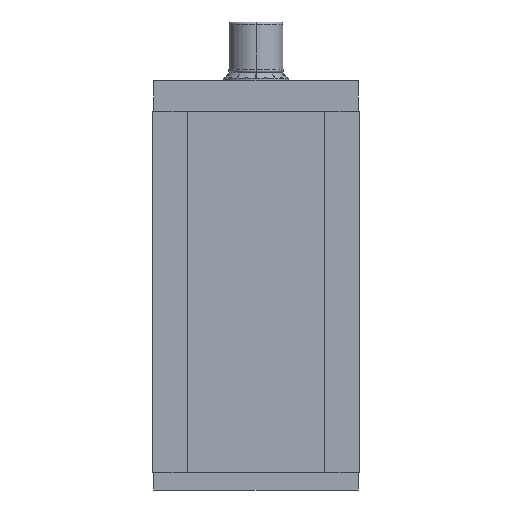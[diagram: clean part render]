
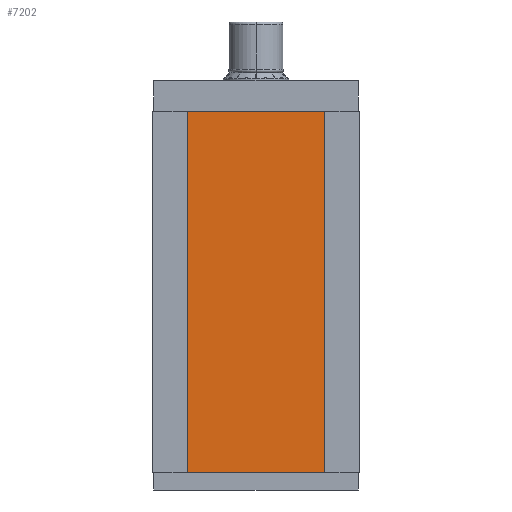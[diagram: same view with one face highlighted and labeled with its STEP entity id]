
A CAD part, front view. The second image highlights one B-rep face of the part: STEP entity #7202.
In plain terms, the highlighted planar face has unit normal (0, -1, 0).
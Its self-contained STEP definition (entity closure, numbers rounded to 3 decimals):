
#2289 = CARTESIAN_POINT ( 'NONE',  ( 41.155, 0., 105. ) ) ;
#2294 = CARTESIAN_POINT ( 'NONE',  ( 41.155, 0., -105. ) ) ;
#2384 = DIRECTION ( 'NONE',  ( 0., 0., -1. ) ) ;
#2385 = VECTOR ( 'NONE', #2384, 1000. ) ;
#2386 = CARTESIAN_POINT ( 'NONE',  ( 41.155, 0., 105. ) ) ;
#2387 = LINE ( 'NONE', #2386, #2385 ) ;
#2573 = DIRECTION ( 'NONE',  ( 1., 0., 0. ) ) ;
#2574 = VECTOR ( 'NONE', #2573, 1000. ) ;
#2575 = CARTESIAN_POINT ( 'NONE',  ( -41.155, 0., 105. ) ) ;
#2576 = LINE ( 'NONE', #2575, #2574 ) ;
#2577 = DIRECTION ( 'NONE',  ( 1., 0., 0. ) ) ;
#2578 = VECTOR ( 'NONE', #2577, 1000. ) ;
#2579 = CARTESIAN_POINT ( 'NONE',  ( -41.155, 0., -105. ) ) ;
#2580 = LINE ( 'NONE', #2579, #2578 ) ;
#2581 = DIRECTION ( 'NONE',  ( 0., 0., 1. ) ) ;
#2582 = DIRECTION ( 'NONE',  ( 0., 1., 0. ) ) ;
#2583 = CARTESIAN_POINT ( 'NONE',  ( -41.155, 0., 105. ) ) ;
#2584 = AXIS2_PLACEMENT_3D ( 'NONE', #2583, #2582, #2581 ) ;
#2585 = PLANE ( 'NONE',  #2584 ) ;
#2586 = FACE_OUTER_BOUND ( 'NONE', #7203, .T. ) ;
#2616 = CARTESIAN_POINT ( 'NONE',  ( -41.155, 0., 105. ) ) ;
#2617 = DIRECTION ( 'NONE',  ( 0., 0., -1. ) ) ;
#2618 = VECTOR ( 'NONE', #2617, 1000. ) ;
#2619 = CARTESIAN_POINT ( 'NONE',  ( -41.155, 0., 105. ) ) ;
#2620 = LINE ( 'NONE', #2619, #2618 ) ;
#2621 = CARTESIAN_POINT ( 'NONE',  ( -41.155, 0., -105. ) ) ;
#7017 = VERTEX_POINT ( 'NONE', #2294 ) ;
#7023 = VERTEX_POINT ( 'NONE', #2289 ) ;
#7083 = EDGE_CURVE ( 'NONE', #7023, #7017, #2387, .T. ) ;
#7202 = ADVANCED_FACE ( 'Fl�che15', ( #2586 ), #2585, .F. ) ;
#7203 = EDGE_LOOP ( 'NONE', ( #7204, #7206, #7207, #7209 ) ) ;
#7204 = ORIENTED_EDGE ( 'NONE', *, *, #7205, .T. ) ;
#7205 = EDGE_CURVE ( 'NONE', #7219, #7017, #2580, .T. ) ;
#7206 = ORIENTED_EDGE ( 'NONE', *, *, #7083, .F. ) ;
#7207 = ORIENTED_EDGE ( 'NONE', *, *, #7208, .F. ) ;
#7208 = EDGE_CURVE ( 'NONE', #7222, #7023, #2576, .T. ) ;
#7209 = ORIENTED_EDGE ( 'NONE', *, *, #7221, .T. ) ;
#7219 = VERTEX_POINT ( 'NONE', #2621 ) ;
#7221 = EDGE_CURVE ( 'NONE', #7222, #7219, #2620, .T. ) ;
#7222 = VERTEX_POINT ( 'NONE', #2616 ) ;
